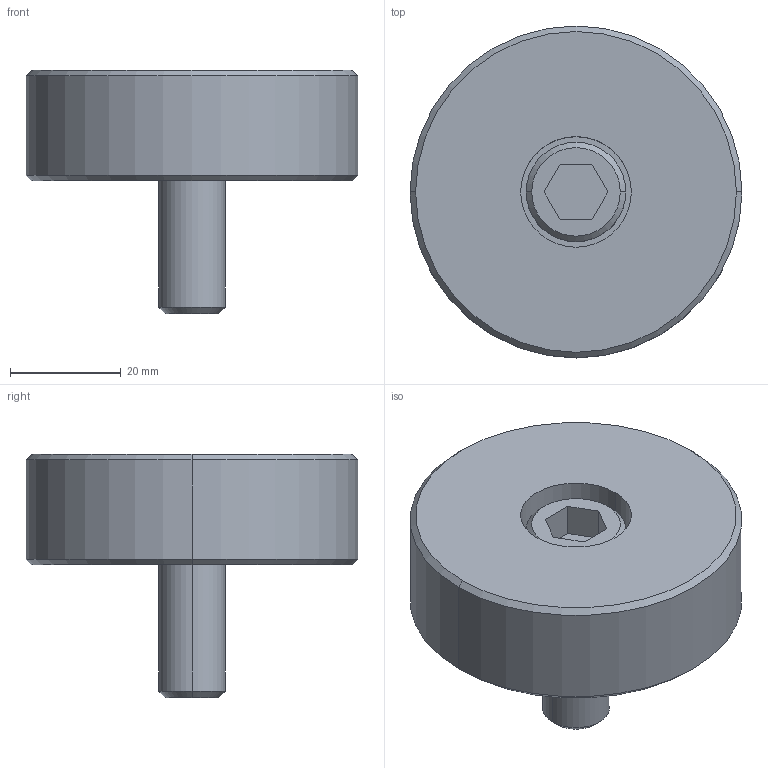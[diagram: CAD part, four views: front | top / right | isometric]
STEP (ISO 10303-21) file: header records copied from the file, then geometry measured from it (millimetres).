
FILE_DESCRIPTION((''),'2;1');
FILE_NAME('','2010-08-30T16:49:05+09:00',('misumi'),(''),'M/STEP i/f 1R2-14','CADmeister v5.1','');
FILE_SCHEMA(('AUTOMOTIVE_DESIGN'));
Length unit declared in the file: millimetre
Products named in the file (1): DEB60-20-N
Bounding box: 60 x 60 x 44 mm (x, y, z)
Volume: 56914.8 mm3; surface area: 12500.5 mm2
Topology: 2 solids, 2 shells, 31 faces, 64 edges, 40 vertices
Faces by surface type: plane 13, cylinder 10, cone 8
Entity records: 924 total; most frequent: DIRECTION 156, CARTESIAN_POINT 136, ORIENTED_EDGE 128, EDGE_CURVE 64, AXIS2_PLACEMENT_3D 60, VERTEX_POINT 40, LINE 36, VECTOR 36
